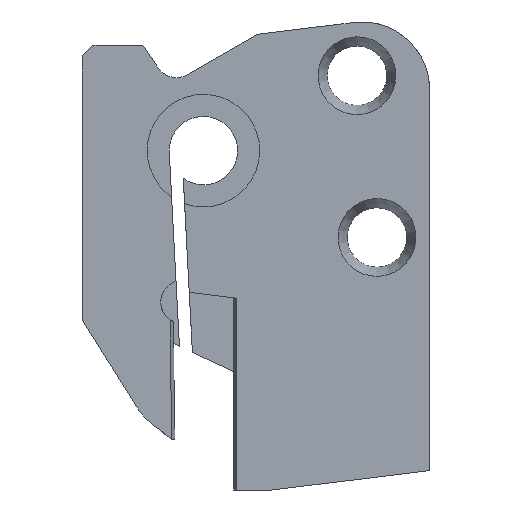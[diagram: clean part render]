
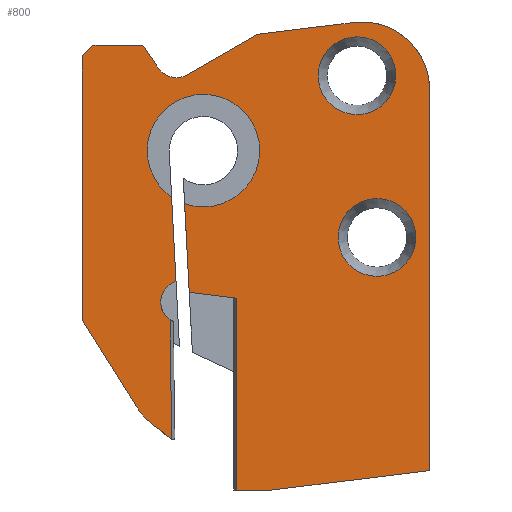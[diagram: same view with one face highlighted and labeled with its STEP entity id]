
A CAD part, left-side view. The second image highlights one B-rep face of the part: STEP entity #800.
In plain terms, the highlighted planar face has unit normal (-1, 0, 0).
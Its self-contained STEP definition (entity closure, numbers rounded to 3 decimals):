
#557=AXIS2_PLACEMENT_3D('Circle Axis2P3D',#555,#556,$) ;
#569=AXIS2_PLACEMENT_3D('Circle Axis2P3D',#567,#568,$) ;
#582=AXIS2_PLACEMENT_3D('Plane Axis2P3D',#579,#580,#581) ;
#616=AXIS2_PLACEMENT_3D('Circle Axis2P3D',#614,#615,$) ;
#637=AXIS2_PLACEMENT_3D('Circle Axis2P3D',#635,#636,$) ;
#679=AXIS2_PLACEMENT_3D('Circle Axis2P3D',#677,#678,$) ;
#693=AXIS2_PLACEMENT_3D('Circle Axis2P3D',#691,#692,$) ;
#707=AXIS2_PLACEMENT_3D('Circle Axis2P3D',#705,#706,$) ;
#721=AXIS2_PLACEMENT_3D('Circle Axis2P3D',#719,#720,$) ;
#728=AXIS2_PLACEMENT_3D('Circle Axis2P3D',#726,#727,$) ;
#735=AXIS2_PLACEMENT_3D('Circle Axis2P3D',#733,#734,$) ;
#780=AXIS2_PLACEMENT_3D('Circle Axis2P3D',#778,#779,$) ;
#789=AXIS2_PLACEMENT_3D('Circle Axis2P3D',#787,#788,$) ;
#545=CARTESIAN_POINT('Vertex',(-7.2,3.655,-11.762)) ;
#552=CARTESIAN_POINT('Vertex',(-7.2,10.145,-15.307)) ;
#555=CARTESIAN_POINT('Axis2P3D Location',(-7.2,6.9,-13.534)) ;
#567=CARTESIAN_POINT('Axis2P3D Location',(-7.2,6.9,-13.534)) ;
#579=CARTESIAN_POINT('Axis2P3D Location',(-7.2,24.,-53.924)) ;
#584=CARTESIAN_POINT('Line Origine',(-7.2,18.334,-43.807)) ;
#588=CARTESIAN_POINT('Vertex',(-7.2,18.334,-34.69)) ;
#590=CARTESIAN_POINT('Vertex',(-7.2,18.334,-52.924)) ;
#593=CARTESIAN_POINT('Line Origine',(-7.2,16.667,-52.924)) ;
#597=CARTESIAN_POINT('Vertex',(-7.2,15.,-52.924)) ;
#600=CARTESIAN_POINT('Line Origine',(-7.2,7.5,-52.003)) ;
#604=CARTESIAN_POINT('Vertex',(-7.2,0.,-51.082)) ;
#607=CARTESIAN_POINT('Line Origine',(-7.2,0.,-32.953)) ;
#611=CARTESIAN_POINT('Vertex',(-7.2,0.,-14.824)) ;
#614=CARTESIAN_POINT('Axis2P3D Location',(-7.2,6.4,-14.824)) ;
#618=CARTESIAN_POINT('Vertex',(-7.2,7.18,-8.472)) ;
#621=CARTESIAN_POINT('Line Origine',(-7.2,11.76,-9.035)) ;
#625=CARTESIAN_POINT('Vertex',(-7.2,16.34,-9.597)) ;
#628=CARTESIAN_POINT('Line Origine',(-7.2,19.67,-11.519)) ;
#632=CARTESIAN_POINT('Vertex',(-7.2,23.,-13.442)) ;
#635=CARTESIAN_POINT('Axis2P3D Location',(-7.2,24.05,-11.623)) ;
#639=CARTESIAN_POINT('Vertex',(-7.2,25.784,-12.808)) ;
#642=CARTESIAN_POINT('Line Origine',(-7.2,26.517,-11.735)) ;
#646=CARTESIAN_POINT('Vertex',(-7.2,27.25,-10.662)) ;
#649=CARTESIAN_POINT('Line Origine',(-7.2,29.625,-10.662)) ;
#653=CARTESIAN_POINT('Vertex',(-7.2,32.,-10.662)) ;
#656=CARTESIAN_POINT('Line Origine',(-7.2,32.5,-11.162)) ;
#660=CARTESIAN_POINT('Vertex',(-7.2,33.,-11.662)) ;
#663=CARTESIAN_POINT('Line Origine',(-7.2,33.,-24.229)) ;
#667=CARTESIAN_POINT('Vertex',(-7.2,33.,-36.796)) ;
#670=CARTESIAN_POINT('Line Origine',(-7.2,30.397,-40.962)) ;
#674=CARTESIAN_POINT('Vertex',(-7.2,27.794,-45.128)) ;
#677=CARTESIAN_POINT('Axis2P3D Location',(-7.2,23.553,-42.478)) ;
#681=CARTESIAN_POINT('Vertex',(-7.2,26.7,-46.364)) ;
#684=CARTESIAN_POINT('Line Origine',(-7.2,25.618,-47.24)) ;
#688=CARTESIAN_POINT('Vertex',(-7.2,24.536,-48.116)) ;
#691=CARTESIAN_POINT('Axis2P3D Location',(-7.2,24.41,-47.961)) ;
#695=CARTESIAN_POINT('Vertex',(-7.2,24.524,-48.125)) ;
#698=CARTESIAN_POINT('Line Origine',(-7.2,24.594,-42.439)) ;
#702=CARTESIAN_POINT('Vertex',(-7.2,24.663,-36.753)) ;
#705=CARTESIAN_POINT('Axis2P3D Location',(-7.2,23.51,-35.058)) ;
#709=CARTESIAN_POINT('Vertex',(-7.2,24.103,-33.095)) ;
#712=CARTESIAN_POINT('Line Origine',(-7.2,24.313,-29.084)) ;
#716=CARTESIAN_POINT('Vertex',(-7.2,24.523,-25.073)) ;
#719=CARTESIAN_POINT('Axis2P3D Location',(-7.2,21.5,-20.659)) ;
#723=CARTESIAN_POINT('Vertex',(-7.2,26.195,-23.224)) ;
#726=CARTESIAN_POINT('Axis2P3D Location',(-7.2,21.5,-20.659)) ;
#730=CARTESIAN_POINT('Vertex',(-7.2,16.805,-18.094)) ;
#733=CARTESIAN_POINT('Axis2P3D Location',(-7.2,21.5,-20.659)) ;
#737=CARTESIAN_POINT('Vertex',(-7.2,23.289,-25.701)) ;
#740=CARTESIAN_POINT('Line Origine',(-7.2,23.068,-29.919)) ;
#744=CARTESIAN_POINT('Vertex',(-7.2,22.847,-34.136)) ;
#747=CARTESIAN_POINT('Line Origine',(-7.2,20.59,-34.413)) ;
#778=CARTESIAN_POINT('Axis2P3D Location',(-7.2,5.,-28.915)) ;
#782=CARTESIAN_POINT('Vertex',(-7.2,1.755,-27.142)) ;
#784=CARTESIAN_POINT('Vertex',(-7.2,8.245,-30.688)) ;
#787=CARTESIAN_POINT('Axis2P3D Location',(-7.2,5.,-28.915)) ;
#556=DIRECTION('Axis2P3D Direction',(-1.,0.,0.)) ;
#568=DIRECTION('Axis2P3D Direction',(-1.,0.,0.)) ;
#580=DIRECTION('Axis2P3D Direction',(1.,0.,0.)) ;
#581=DIRECTION('Axis2P3D XDirection',(0.,1.,0.)) ;
#585=DIRECTION('Vector Direction',(0.,0.,-1.)) ;
#594=DIRECTION('Vector Direction',(0.,-1.,0.)) ;
#601=DIRECTION('Vector Direction',(0.,0.993,-0.122)) ;
#608=DIRECTION('Vector Direction',(0.,0.,1.)) ;
#615=DIRECTION('Axis2P3D Direction',(1.,0.,0.)) ;
#622=DIRECTION('Vector Direction',(0.,-0.993,0.122)) ;
#629=DIRECTION('Vector Direction',(0.,-0.866,0.5)) ;
#636=DIRECTION('Axis2P3D Direction',(1.,0.,0.)) ;
#643=DIRECTION('Vector Direction',(0.,-0.564,-0.826)) ;
#650=DIRECTION('Vector Direction',(0.,1.,0.)) ;
#657=DIRECTION('Vector Direction',(0.,-0.707,0.707)) ;
#664=DIRECTION('Vector Direction',(0.,0.,-1.)) ;
#671=DIRECTION('Vector Direction',(0.,-0.53,-0.848)) ;
#678=DIRECTION('Axis2P3D Direction',(1.,0.,0.)) ;
#685=DIRECTION('Vector Direction',(0.,-0.777,-0.629)) ;
#692=DIRECTION('Axis2P3D Direction',(1.,0.,0.)) ;
#699=DIRECTION('Vector Direction',(0.,-0.012,-1.)) ;
#706=DIRECTION('Axis2P3D Direction',(1.,0.,0.)) ;
#713=DIRECTION('Vector Direction',(0.,0.052,0.999)) ;
#720=DIRECTION('Axis2P3D Direction',(1.,0.,0.)) ;
#727=DIRECTION('Axis2P3D Direction',(1.,0.,0.)) ;
#734=DIRECTION('Axis2P3D Direction',(1.,0.,0.)) ;
#741=DIRECTION('Vector Direction',(0.,0.052,0.999)) ;
#748=DIRECTION('Vector Direction',(0.,0.993,0.122)) ;
#779=DIRECTION('Axis2P3D Direction',(1.,0.,0.)) ;
#788=DIRECTION('Axis2P3D Direction',(1.,0.,0.)) ;
#586=VECTOR('Line Direction',#585,1.) ;
#595=VECTOR('Line Direction',#594,1.) ;
#602=VECTOR('Line Direction',#601,1.) ;
#609=VECTOR('Line Direction',#608,1.) ;
#623=VECTOR('Line Direction',#622,1.) ;
#630=VECTOR('Line Direction',#629,1.) ;
#644=VECTOR('Line Direction',#643,1.) ;
#651=VECTOR('Line Direction',#650,1.) ;
#658=VECTOR('Line Direction',#657,1.) ;
#665=VECTOR('Line Direction',#664,1.) ;
#672=VECTOR('Line Direction',#671,1.) ;
#686=VECTOR('Line Direction',#685,1.) ;
#700=VECTOR('Line Direction',#699,1.) ;
#714=VECTOR('Line Direction',#713,1.) ;
#742=VECTOR('Line Direction',#741,1.) ;
#749=VECTOR('Line Direction',#748,1.) ;
#753=ORIENTED_EDGE('',*,*,#592,.T.) ;
#754=ORIENTED_EDGE('',*,*,#599,.T.) ;
#755=ORIENTED_EDGE('',*,*,#606,.F.) ;
#756=ORIENTED_EDGE('',*,*,#613,.F.) ;
#757=ORIENTED_EDGE('',*,*,#620,.F.) ;
#758=ORIENTED_EDGE('',*,*,#627,.F.) ;
#759=ORIENTED_EDGE('',*,*,#634,.F.) ;
#760=ORIENTED_EDGE('',*,*,#641,.T.) ;
#761=ORIENTED_EDGE('',*,*,#648,.F.) ;
#762=ORIENTED_EDGE('',*,*,#655,.T.) ;
#763=ORIENTED_EDGE('',*,*,#662,.T.) ;
#764=ORIENTED_EDGE('',*,*,#669,.F.) ;
#765=ORIENTED_EDGE('',*,*,#676,.T.) ;
#766=ORIENTED_EDGE('',*,*,#683,.F.) ;
#767=ORIENTED_EDGE('',*,*,#690,.T.) ;
#768=ORIENTED_EDGE('',*,*,#697,.F.) ;
#769=ORIENTED_EDGE('',*,*,#704,.F.) ;
#770=ORIENTED_EDGE('',*,*,#711,.T.) ;
#771=ORIENTED_EDGE('',*,*,#718,.T.) ;
#772=ORIENTED_EDGE('',*,*,#725,.T.) ;
#773=ORIENTED_EDGE('',*,*,#732,.T.) ;
#774=ORIENTED_EDGE('',*,*,#739,.T.) ;
#775=ORIENTED_EDGE('',*,*,#746,.F.) ;
#776=ORIENTED_EDGE('',*,*,#751,.F.) ;
#793=ORIENTED_EDGE('',*,*,#786,.T.) ;
#794=ORIENTED_EDGE('',*,*,#791,.T.) ;
#797=ORIENTED_EDGE('',*,*,#559,.T.) ;
#798=ORIENTED_EDGE('',*,*,#571,.T.) ;
#795=FACE_BOUND('',#792,.T.) ;
#799=FACE_BOUND('',#796,.T.) ;
#800=ADVANCED_FACE('NOCUT',(#777,#795,#799),#583,.F.) ;
#558=CIRCLE('generated circle',#557,3.698) ;
#570=CIRCLE('generated circle',#569,3.698) ;
#617=CIRCLE('generated circle',#616,6.4) ;
#638=CIRCLE('generated circle',#637,2.1) ;
#680=CIRCLE('generated circle',#679,5.) ;
#694=CIRCLE('generated circle',#693,0.2) ;
#708=CIRCLE('generated circle',#707,2.05) ;
#722=CIRCLE('generated circle',#721,5.35) ;
#729=CIRCLE('generated circle',#728,5.35) ;
#736=CIRCLE('generated circle',#735,5.35) ;
#781=CIRCLE('generated circle',#780,3.698) ;
#790=CIRCLE('generated circle',#789,3.698) ;
#559=EDGE_CURVE('',#546,#553,#558,.F.) ;
#571=EDGE_CURVE('',#553,#546,#570,.F.) ;
#592=EDGE_CURVE('',#589,#591,#587,.T.) ;
#599=EDGE_CURVE('',#591,#598,#596,.T.) ;
#606=EDGE_CURVE('',#605,#598,#603,.T.) ;
#613=EDGE_CURVE('',#612,#605,#610,.F.) ;
#620=EDGE_CURVE('',#619,#612,#617,.T.) ;
#627=EDGE_CURVE('',#626,#619,#624,.T.) ;
#634=EDGE_CURVE('',#633,#626,#631,.T.) ;
#641=EDGE_CURVE('',#633,#640,#638,.T.) ;
#648=EDGE_CURVE('',#647,#640,#645,.T.) ;
#655=EDGE_CURVE('',#647,#654,#652,.T.) ;
#662=EDGE_CURVE('',#654,#661,#659,.F.) ;
#669=EDGE_CURVE('',#668,#661,#666,.F.) ;
#676=EDGE_CURVE('',#668,#675,#673,.T.) ;
#683=EDGE_CURVE('',#682,#675,#680,.T.) ;
#690=EDGE_CURVE('',#682,#689,#687,.T.) ;
#697=EDGE_CURVE('',#696,#689,#694,.T.) ;
#704=EDGE_CURVE('',#703,#696,#701,.T.) ;
#711=EDGE_CURVE('',#703,#710,#708,.T.) ;
#718=EDGE_CURVE('',#710,#717,#715,.T.) ;
#725=EDGE_CURVE('',#717,#724,#722,.T.) ;
#732=EDGE_CURVE('',#724,#731,#729,.T.) ;
#739=EDGE_CURVE('',#731,#738,#736,.T.) ;
#746=EDGE_CURVE('',#745,#738,#743,.T.) ;
#751=EDGE_CURVE('',#589,#745,#750,.T.) ;
#786=EDGE_CURVE('',#783,#785,#781,.T.) ;
#791=EDGE_CURVE('',#785,#783,#790,.T.) ;
#752=EDGE_LOOP('',(#753,#754,#755,#756,#757,#758,#759,#760,#761,#762,#763,#764,#765,#766,#767,#768,#769,#770,#771,#772,#773,#774,#775,#776)) ;
#792=EDGE_LOOP('',(#793,#794)) ;
#796=EDGE_LOOP('',(#797,#798)) ;
#777=FACE_OUTER_BOUND('',#752,.T.) ;
#587=LINE('Line',#584,#586) ;
#596=LINE('Line',#593,#595) ;
#603=LINE('Line',#600,#602) ;
#610=LINE('Line',#607,#609) ;
#624=LINE('Line',#621,#623) ;
#631=LINE('Line',#628,#630) ;
#645=LINE('Line',#642,#644) ;
#652=LINE('Line',#649,#651) ;
#659=LINE('Line',#656,#658) ;
#666=LINE('Line',#663,#665) ;
#673=LINE('Line',#670,#672) ;
#687=LINE('Line',#684,#686) ;
#701=LINE('Line',#698,#700) ;
#715=LINE('Line',#712,#714) ;
#743=LINE('Line',#740,#742) ;
#750=LINE('Line',#747,#749) ;
#583=PLANE('',#582) ;
#546=VERTEX_POINT('',#545) ;
#553=VERTEX_POINT('',#552) ;
#589=VERTEX_POINT('',#588) ;
#591=VERTEX_POINT('',#590) ;
#598=VERTEX_POINT('',#597) ;
#605=VERTEX_POINT('',#604) ;
#612=VERTEX_POINT('',#611) ;
#619=VERTEX_POINT('',#618) ;
#626=VERTEX_POINT('',#625) ;
#633=VERTEX_POINT('',#632) ;
#640=VERTEX_POINT('',#639) ;
#647=VERTEX_POINT('',#646) ;
#654=VERTEX_POINT('',#653) ;
#661=VERTEX_POINT('',#660) ;
#668=VERTEX_POINT('',#667) ;
#675=VERTEX_POINT('',#674) ;
#682=VERTEX_POINT('',#681) ;
#689=VERTEX_POINT('',#688) ;
#696=VERTEX_POINT('',#695) ;
#703=VERTEX_POINT('',#702) ;
#710=VERTEX_POINT('',#709) ;
#717=VERTEX_POINT('',#716) ;
#724=VERTEX_POINT('',#723) ;
#731=VERTEX_POINT('',#730) ;
#738=VERTEX_POINT('',#737) ;
#745=VERTEX_POINT('',#744) ;
#783=VERTEX_POINT('',#782) ;
#785=VERTEX_POINT('',#784) ;
